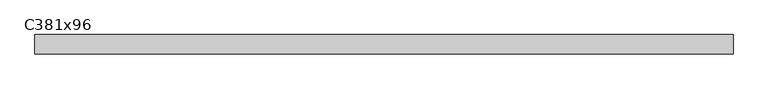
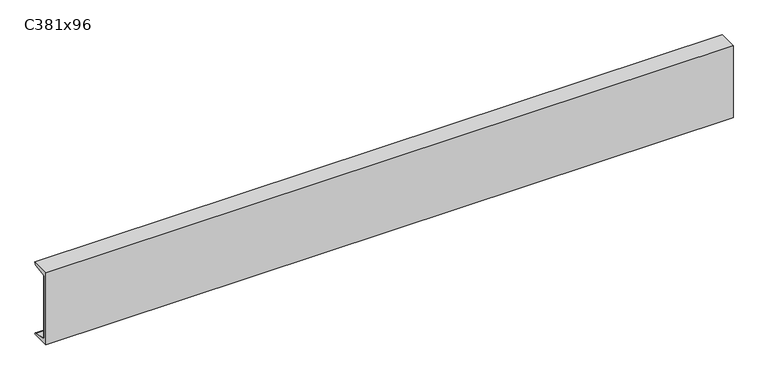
"""IFC4 building model written with IfcOpenShell, lengths in millimetres: beam geometry, M_C-Channel_305x105 : C381x96."""

from ifc_helpers import new_model, si_unit, point, frame, frame_2d, origin, place, context, project, spatial, polyline, circle_curve, trimmed, segment, composite_curve, outline, extrude, source, transform, mapped, element, save


def c381x96_86510107(model_context):
    return source(origin(), model_context, "Body", "SweptSolid", [
        extrude(outline(composite_curve([segment(polyline([(-16.8909985, 190.5), (79.1090015, 190.5)]), True, "CONTINUOUS"), segment(trimmed(circle_curve(frame_2d((66.4090015, 190.5)), 12.7), [point((79.1090015, 190.5))], [point((66.4090015, 177.8))], False, "CARTESIAN"), True, "CONTINUOUS"), segment(polyline([(66.4090015, 177.8), (-3.8909985, 166.6655738), (-3.8909985, -166.6655738), (66.4090015, -177.8)]), True, "CONTINUOUS"), segment(trimmed(circle_curve(frame_2d((66.4090015, -190.5)), 12.7), [point((66.4090015, -177.8))], [point((79.1090015, -190.5))], False, "CARTESIAN"), True, "CONTINUOUS"), segment(polyline([(79.1090015, -190.5), (-16.8909985, -190.5), (-16.8909985, 190.5)]), True, "CONTINUOUS")], self_intersect=False)), frame((81.1462653, 0.0, 0.0), z_axis=(1.0, 0.0, 0.0), x_axis=(0.0, 1.0, 0.0)), (0.0, 0.0, 1.0), 3439.0),
        extrude(outline(polyline([(4.2340015, 166.8239583), (4.2340015, -164.495707), (4.2340015, -166.8239583), (-0.8909985, -166.012238), (-0.8909985, 166.012238), (4.2340015, 166.8239583)])), frame((81.1462653, 0.0, 0.0), z_axis=(1.0, 0.0, 0.0), x_axis=(0.0, 1.0, 0.0)), (0.0, 0.0, 1.0), 3439.0),
    ])


if __name__ == "__main__":
    model = new_model("IFC4")
    model_context = context("Model", 3, world=origin())
    ifc_project = project(units=[si_unit("LENGTHUNIT", "METRE", prefix="MILLI")], contexts=[model_context])
    site = spatial("IfcSite", under=ifc_project)
    building = spatial("IfcBuilding", under=site)
    placement = place(None, origin())
    c381x96_shape = c381x96_86510107(model_context)
    element("IfcBeam", 1, ObjectType="M_C-Channel_305x105 : C381x96", at=placement, inside=building, context=model_context, shape_type="MappedRepresentation", body=[
        mapped(c381x96_shape, transform((0.0, 0.0, 0.0), x_axis=(1.0, 0.0, 0.0), y_axis=(0.0, 1.0, 0.0), z_axis=(0.0, 0.0, 1.0))),
    ])
    save(model, "model.ifc")
